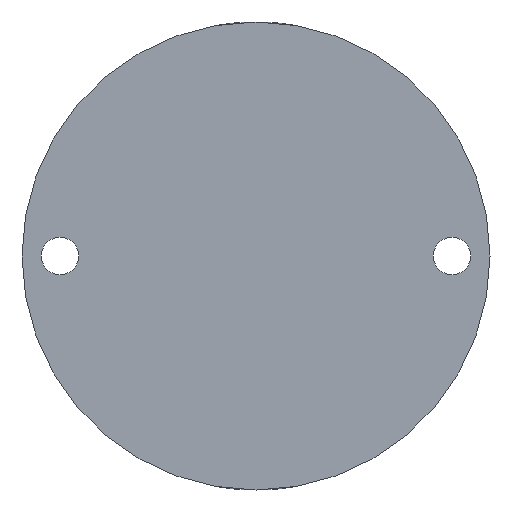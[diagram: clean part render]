
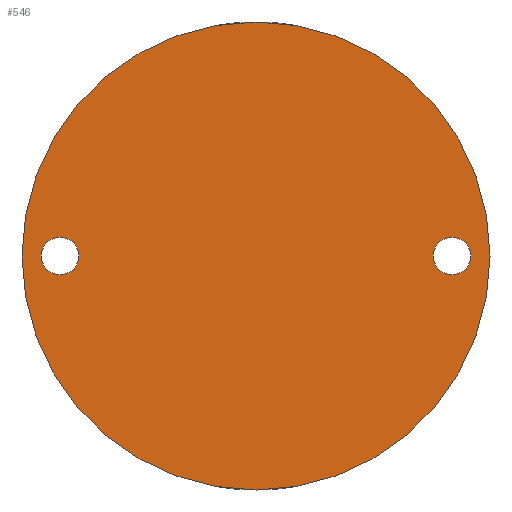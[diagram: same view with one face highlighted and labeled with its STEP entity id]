
A CAD part, front view. The second image highlights one B-rep face of the part: STEP entity #546.
In plain terms, the highlighted planar face has unit normal (0, -1, 0).
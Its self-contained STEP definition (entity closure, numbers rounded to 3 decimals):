
#3 = VERTEX_POINT ( 'NONE', #186 ) ;
#17 = ORIENTED_EDGE ( 'NONE', *, *, #187, .T. ) ;
#53 = DIRECTION ( 'NONE',  ( 0., 0., 1. ) ) ;
#63 = CARTESIAN_POINT ( 'NONE',  ( -33.5, 0., 0. ) ) ;
#77 = CIRCLE ( 'NONE', #905, 40. ) ;
#79 = CIRCLE ( 'NONE', #831, 3.2 ) ;
#138 = DIRECTION ( 'NONE',  ( 0., 0., 1. ) ) ;
#148 = EDGE_LOOP ( 'NONE', ( #232, #557 ) ) ;
#162 = CARTESIAN_POINT ( 'NONE',  ( -33.5, 0., 3.2 ) ) ;
#186 = CARTESIAN_POINT ( 'NONE',  ( 0., 0., 40. ) ) ;
#187 = EDGE_CURVE ( 'NONE', #615, #3, #635, .T. ) ;
#204 = AXIS2_PLACEMENT_3D ( 'NONE', #282, #864, #357 ) ;
#232 = ORIENTED_EDGE ( 'NONE', *, *, #350, .T. ) ;
#279 = CIRCLE ( 'NONE', #1058, 3.2 ) ;
#282 = CARTESIAN_POINT ( 'NONE',  ( 33.5, 0., 0. ) ) ;
#283 = ORIENTED_EDGE ( 'NONE', *, *, #628, .T. ) ;
#284 = CARTESIAN_POINT ( 'NONE',  ( -33.5, 0., 0. ) ) ;
#295 = DIRECTION ( 'NONE',  ( 0., 1., 0. ) ) ;
#315 = EDGE_CURVE ( 'NONE', #444, #366, #79, .T. ) ;
#338 = ORIENTED_EDGE ( 'NONE', *, *, #567, .T. ) ;
#350 = EDGE_CURVE ( 'NONE', #601, #903, #279, .T. ) ;
#357 = DIRECTION ( 'NONE',  ( 0., 0., 1. ) ) ;
#362 = DIRECTION ( 'NONE',  ( 0., 0., 1. ) ) ;
#366 = VERTEX_POINT ( 'NONE', #556 ) ;
#368 = CARTESIAN_POINT ( 'NONE',  ( -33.5, 0., -3.2 ) ) ;
#380 = PLANE ( 'NONE',  #952 ) ;
#389 = AXIS2_PLACEMENT_3D ( 'NONE', #476, #1056, #552 ) ;
#392 = FACE_OUTER_BOUND ( 'NONE', #908, .T. ) ;
#409 = CIRCLE ( 'NONE', #930, 3.2 ) ;
#414 = CARTESIAN_POINT ( 'NONE',  ( 0., 0., 0. ) ) ;
#419 = CARTESIAN_POINT ( 'NONE',  ( 0., 0., -40. ) ) ;
#444 = VERTEX_POINT ( 'NONE', #751 ) ;
#476 = CARTESIAN_POINT ( 'NONE',  ( 0., 0., 0. ) ) ;
#495 = DIRECTION ( 'NONE',  ( 0., 0., -1. ) ) ;
#542 = DIRECTION ( 'NONE',  ( 0., 1., 0. ) ) ;
#546 = ADVANCED_FACE ( 'NONE', ( #829, #1019, #392 ), #380, .F. ) ;
#552 = DIRECTION ( 'NONE',  ( 0., 0., -1. ) ) ;
#556 = CARTESIAN_POINT ( 'NONE',  ( 33.5, 0., 3.2 ) ) ;
#557 = ORIENTED_EDGE ( 'NONE', *, *, #877, .T. ) ;
#567 = EDGE_CURVE ( 'NONE', #3, #615, #77, .T. ) ;
#601 = VERTEX_POINT ( 'NONE', #162 ) ;
#615 = VERTEX_POINT ( 'NONE', #419 ) ;
#628 = EDGE_CURVE ( 'NONE', #366, #444, #917, .T. ) ;
#635 = CIRCLE ( 'NONE', #389, 40. ) ;
#639 = DIRECTION ( 'NONE',  ( 0., 1., 0. ) ) ;
#656 = EDGE_LOOP ( 'NONE', ( #283, #868 ) ) ;
#751 = CARTESIAN_POINT ( 'NONE',  ( 33.5, 0., -3.2 ) ) ;
#783 = CARTESIAN_POINT ( 'NONE',  ( 33.5, 0., 0. ) ) ;
#829 = FACE_BOUND ( 'NONE', #148, .T. ) ;
#831 = AXIS2_PLACEMENT_3D ( 'NONE', #783, #295, #1015 ) ;
#864 = DIRECTION ( 'NONE',  ( 0., 1., 0. ) ) ;
#866 = DIRECTION ( 'NONE',  ( 0., 1., 0. ) ) ;
#868 = ORIENTED_EDGE ( 'NONE', *, *, #315, .T. ) ;
#877 = EDGE_CURVE ( 'NONE', #903, #601, #409, .T. ) ;
#885 = CARTESIAN_POINT ( 'NONE',  ( 0., 0., 0. ) ) ;
#903 = VERTEX_POINT ( 'NONE', #368 ) ;
#905 = AXIS2_PLACEMENT_3D ( 'NONE', #414, #987, #495 ) ;
#908 = EDGE_LOOP ( 'NONE', ( #17, #338 ) ) ;
#917 = CIRCLE ( 'NONE', #204, 3.2 ) ;
#930 = AXIS2_PLACEMENT_3D ( 'NONE', #284, #866, #362 ) ;
#952 = AXIS2_PLACEMENT_3D ( 'NONE', #885, #542, #53 ) ;
#987 = DIRECTION ( 'NONE',  ( 0., -1., 0. ) ) ;
#1015 = DIRECTION ( 'NONE',  ( 0., 0., 1. ) ) ;
#1019 = FACE_BOUND ( 'NONE', #656, .T. ) ;
#1056 = DIRECTION ( 'NONE',  ( 0., -1., 0. ) ) ;
#1058 = AXIS2_PLACEMENT_3D ( 'NONE', #63, #639, #138 ) ;
